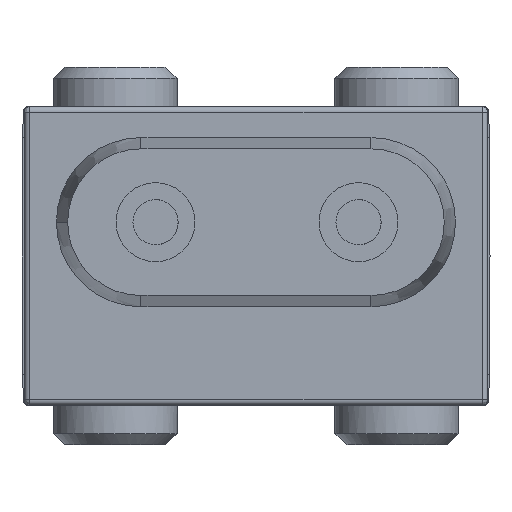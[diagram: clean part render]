
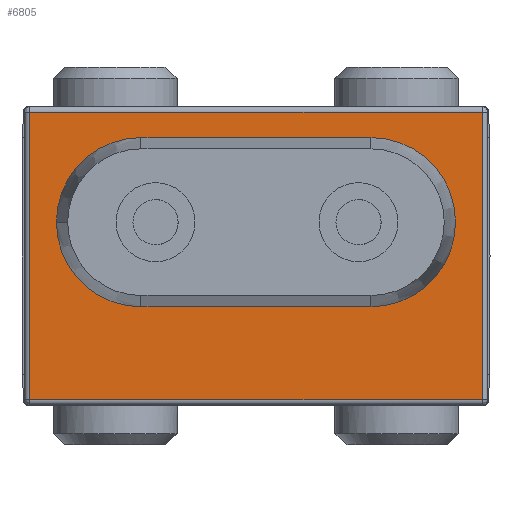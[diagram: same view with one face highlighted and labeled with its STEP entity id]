
A CAD part, front view. The second image highlights one B-rep face of the part: STEP entity #6805.
In plain terms, the highlighted planar face has unit normal (0, -1, 0).
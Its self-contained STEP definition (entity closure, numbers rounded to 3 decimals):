
#78 = VECTOR ( 'NONE', #2083, 1000. ) ;
#144 = CIRCLE ( 'NONE', #250, 1.5 ) ;
#250 = AXIS2_PLACEMENT_3D ( 'NONE', #3559, #8599, #4312 ) ;
#264 = LINE ( 'NONE', #9010, #6180 ) ;
#323 = LINE ( 'NONE', #4120, #7859 ) ;
#507 = DIRECTION ( 'NONE',  ( 1., 0., 0. ) ) ;
#577 = DIRECTION ( 'NONE',  ( -1., 0., 0. ) ) ;
#584 = ORIENTED_EDGE ( 'NONE', *, *, #4844, .F. ) ;
#775 = VERTEX_POINT ( 'NONE', #8155 ) ;
#948 = CARTESIAN_POINT ( 'NONE',  ( -7.111, 28.6, 14.45 ) ) ;
#1031 = LINE ( 'NONE', #5885, #8341 ) ;
#1289 = ORIENTED_EDGE ( 'NONE', *, *, #3521, .T. ) ;
#1403 = ORIENTED_EDGE ( 'NONE', *, *, #4491, .T. ) ;
#1462 = CARTESIAN_POINT ( 'NONE',  ( -13.261, 28.6, 14.45 ) ) ;
#1614 = FACE_BOUND ( 'NONE', #3270, .T. ) ;
#1767 = VERTEX_POINT ( 'NONE', #5686 ) ;
#2083 = DIRECTION ( 'NONE',  ( -1., 0., 0. ) ) ;
#2405 = VECTOR ( 'NONE', #2789, 1000. ) ;
#2789 = DIRECTION ( 'NONE',  ( 1., 0., 0. ) ) ;
#2927 = DIRECTION ( 'NONE',  ( 1., 0., 0. ) ) ;
#2959 = ORIENTED_EDGE ( 'NONE', *, *, #9214, .T. ) ;
#3009 = AXIS2_PLACEMENT_3D ( 'NONE', #6156, #6142, #6119 ) ;
#3270 = EDGE_LOOP ( 'NONE', ( #2959, #8955, #8500, #7000, #1403 ) ) ;
#3283 = VERTEX_POINT ( 'NONE', #7064 ) ;
#3480 = CIRCLE ( 'NONE', #3009, 1.5 ) ;
#3521 = EDGE_CURVE ( 'NONE', #8928, #7455, #264, .T. ) ;
#3559 = CARTESIAN_POINT ( 'NONE',  ( -11.19, 28.6, 12.95 ) ) ;
#3737 = CARTESIAN_POINT ( 'NONE',  ( -13.261, 28.6, 9.7 ) ) ;
#3791 = ORIENTED_EDGE ( 'NONE', *, *, #6658, .T. ) ;
#3917 = CARTESIAN_POINT ( 'NONE',  ( -12.69, 28.6, 12.95 ) ) ;
#4120 = CARTESIAN_POINT ( 'NONE',  ( -13.261, 28.6, 9.8 ) ) ;
#4312 = DIRECTION ( 'NONE',  ( -1., 0., 0. ) ) ;
#4491 = EDGE_CURVE ( 'NONE', #1767, #775, #5241, .T. ) ;
#4590 = PLANE ( 'NONE',  #6806 ) ;
#4709 = VERTEX_POINT ( 'NONE', #6912 ) ;
#4844 = EDGE_CURVE ( 'NONE', #3283, #7455, #8191, .T. ) ;
#4858 = EDGE_CURVE ( 'NONE', #7797, #1767, #6861, .T. ) ;
#5071 = DIRECTION ( 'NONE',  ( 0., 1., 0. ) ) ;
#5099 = VERTEX_POINT ( 'NONE', #3917 ) ;
#5241 = LINE ( 'NONE', #6476, #78 ) ;
#5349 = DIRECTION ( 'NONE',  ( 0., -1., 0. ) ) ;
#5356 = VECTOR ( 'NONE', #2927, 1000. ) ;
#5499 = EDGE_CURVE ( 'NONE', #5099, #4709, #3480, .T. ) ;
#5562 = FACE_OUTER_BOUND ( 'NONE', #7040, .T. ) ;
#5686 = CARTESIAN_POINT ( 'NONE',  ( -7.111, 28.6, 11.45 ) ) ;
#5831 = DIRECTION ( 'NONE',  ( 0., 0., -1. ) ) ;
#5871 = CARTESIAN_POINT ( 'NONE',  ( -5.14, 28.6, 9.8 ) ) ;
#5885 = CARTESIAN_POINT ( 'NONE',  ( -13.161, 28.6, 9.7 ) ) ;
#6105 = DIRECTION ( 'NONE',  ( 0., 0., 1. ) ) ;
#6119 = DIRECTION ( 'NONE',  ( -1., 0., 0. ) ) ;
#6142 = DIRECTION ( 'NONE',  ( 0., 1., 0. ) ) ;
#6156 = CARTESIAN_POINT ( 'NONE',  ( -11.19, 28.6, 12.95 ) ) ;
#6180 = VECTOR ( 'NONE', #6105, 1000. ) ;
#6276 = VERTEX_POINT ( 'NONE', #7524 ) ;
#6433 = CARTESIAN_POINT ( 'NONE',  ( -13.261, 28.6, 14.9 ) ) ;
#6476 = CARTESIAN_POINT ( 'NONE',  ( -13.261, 28.6, 11.45 ) ) ;
#6658 = EDGE_CURVE ( 'NONE', #3283, #6276, #1031, .T. ) ;
#6745 = EDGE_CURVE ( 'NONE', #6276, #8928, #323, .T. ) ;
#6805 = ADVANCED_FACE ( 'NONE', ( #1614, #5562 ), #4590, .T. ) ;
#6806 = AXIS2_PLACEMENT_3D ( 'NONE', #3737, #5349, #8594 ) ;
#6826 = EDGE_CURVE ( 'NONE', #4709, #7797, #7193, .T. ) ;
#6861 = CIRCLE ( 'NONE', #7439, 1.5 ) ;
#6912 = CARTESIAN_POINT ( 'NONE',  ( -11.19, 28.6, 14.45 ) ) ;
#7000 = ORIENTED_EDGE ( 'NONE', *, *, #4858, .T. ) ;
#7040 = EDGE_LOOP ( 'NONE', ( #584, #3791, #9420, #1289 ) ) ;
#7064 = CARTESIAN_POINT ( 'NONE',  ( -13.161, 28.6, 14.9 ) ) ;
#7193 = LINE ( 'NONE', #1462, #5356 ) ;
#7439 = AXIS2_PLACEMENT_3D ( 'NONE', #9336, #5071, #577 ) ;
#7455 = VERTEX_POINT ( 'NONE', #8394 ) ;
#7524 = CARTESIAN_POINT ( 'NONE',  ( -13.161, 28.6, 9.8 ) ) ;
#7797 = VERTEX_POINT ( 'NONE', #948 ) ;
#7859 = VECTOR ( 'NONE', #507, 1000. ) ;
#8155 = CARTESIAN_POINT ( 'NONE',  ( -11.19, 28.6, 11.45 ) ) ;
#8191 = LINE ( 'NONE', #6433, #2405 ) ;
#8341 = VECTOR ( 'NONE', #5831, 1000. ) ;
#8394 = CARTESIAN_POINT ( 'NONE',  ( -5.14, 28.6, 14.9 ) ) ;
#8500 = ORIENTED_EDGE ( 'NONE', *, *, #6826, .T. ) ;
#8594 = DIRECTION ( 'NONE',  ( 0., 0., -1. ) ) ;
#8599 = DIRECTION ( 'NONE',  ( 0., 1., 0. ) ) ;
#8928 = VERTEX_POINT ( 'NONE', #5871 ) ;
#8955 = ORIENTED_EDGE ( 'NONE', *, *, #5499, .T. ) ;
#9010 = CARTESIAN_POINT ( 'NONE',  ( -5.14, 28.6, 9.7 ) ) ;
#9214 = EDGE_CURVE ( 'NONE', #775, #5099, #144, .T. ) ;
#9336 = CARTESIAN_POINT ( 'NONE',  ( -7.111, 28.6, 12.95 ) ) ;
#9420 = ORIENTED_EDGE ( 'NONE', *, *, #6745, .T. ) ;
